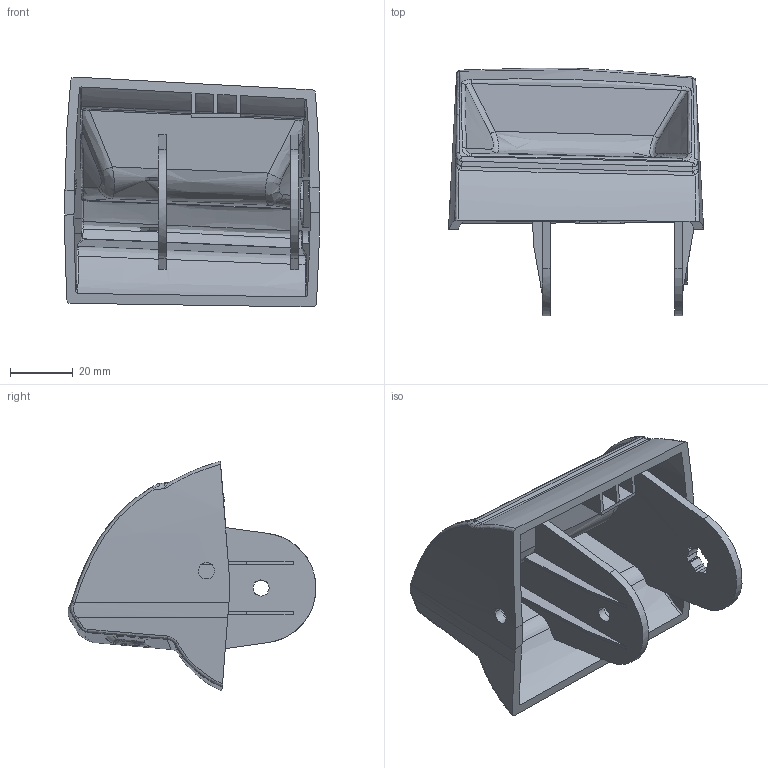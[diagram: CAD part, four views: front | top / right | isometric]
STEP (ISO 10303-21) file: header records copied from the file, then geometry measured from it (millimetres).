
FILE_DESCRIPTION(('CATIA V5 STEP Exchange'),'2;1');
FILE_NAME('F:\11-X3000\2.0平台提升\2.0外观提升\0807\1217更改方案\1220手工样件订单\SHT0012970-样件.stp','2020-12-21T06:39:54+00:00',('none'),('none'),'CATIA Version 5 Release 20 GA (IN-10)','CATIA V5 STEP AP203 Edition 2','none');
FILE_SCHEMA(('AP203_CONFIGURATION_CONTROLLED_3D_DESIGN_OF_MECHANICAL_PARTS_AND_ASSEMBLIES_MIM_LF { 1 0 10303 403 2 1 2}'));
Length unit declared in the file: millimetre
Products named in the file (1): liba288C569Eo28z
Bounding box: 81.14 x 78.89 x 73.15 mm (x, y, z)
Volume: 54216.5 mm3; surface area: 39171.1 mm2
Topology: 1 solids, 1 shells, 267 faces, 854 edges, 580 vertices
Faces by surface type: bspline 172, plane 54, cylinder 35, sphere 6
Entity records: 20855 total; most frequent: CARTESIAN_POINT 15133, ORIENTED_EDGE 1692, EDGE_CURVE 846, B_SPLINE_CURVE_WITH_KNOTS 672, VERTEX_POINT 580, DIRECTION 366, EDGE_LOOP 276, ADVANCED_FACE 267
